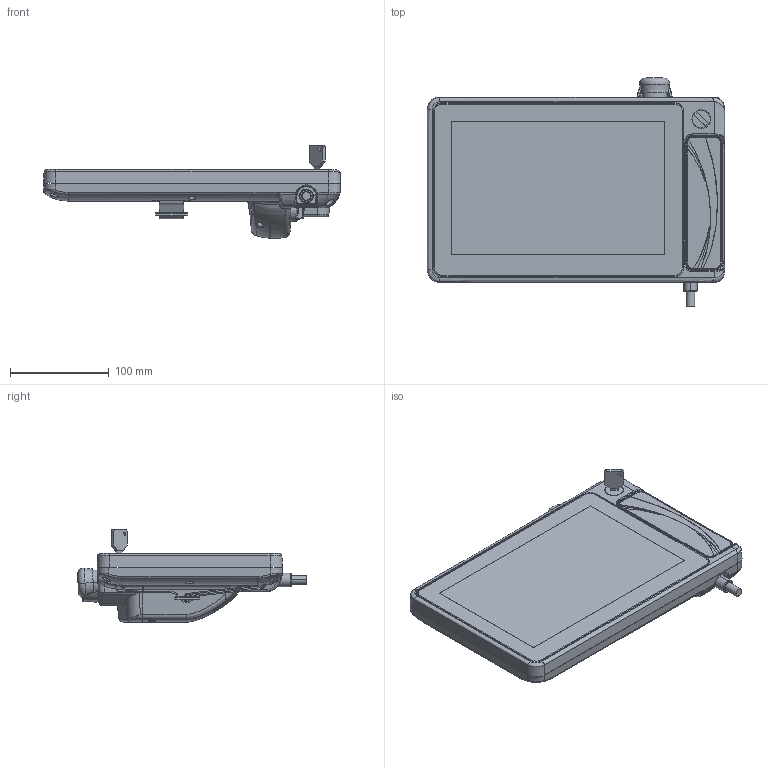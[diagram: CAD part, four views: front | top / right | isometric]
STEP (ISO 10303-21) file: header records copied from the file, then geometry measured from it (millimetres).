
FILE_DESCRIPTION((''),'2;1');
FILE_NAME('SZ10PES_ASM','2025-08-04T16:18:48',('admin'),(''),'CREO PARAMETRIC BY PTC INC, 2019164','CREO PARAMETRIC BY PTC INC, 2019164','');
FILE_SCHEMA(('CONFIG_CONTROL_DESIGN'));
Products named in the file (1): SZ10PES_ASM
Bounding box: 300.64 x 231.23 x 93.69 mm (x, y, z)
Surface area: 175170.1 mm2 (no closed solid volume)
Topology: 0 solids, 45 shells, 1128 faces, 3251 edges, 2145 vertices
Faces by surface type: cylinder 370, bspline 292, plane 271, torus 109, cone 49, sphere 18, extrusion 17, revolution 2
Entity records: 66918 total; most frequent: CARTESIAN_POINT 40355, ORIENTED_EDGE 5723, DIRECTION 4683, EDGE_CURVE 3236, VERTEX_POINT 2145, AXIS2_PLACEMENT_3D 1660, VECTOR 1361, LINE 1344
